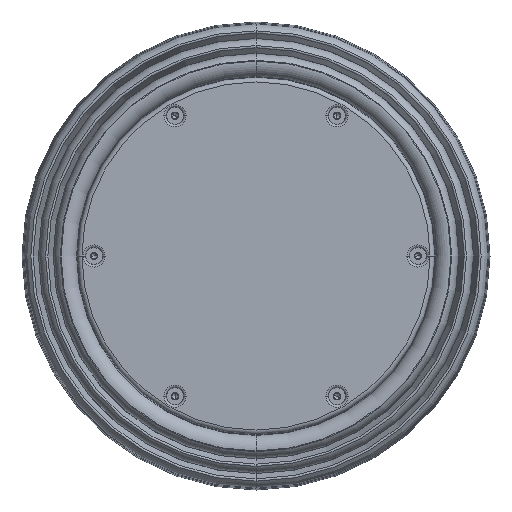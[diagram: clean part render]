
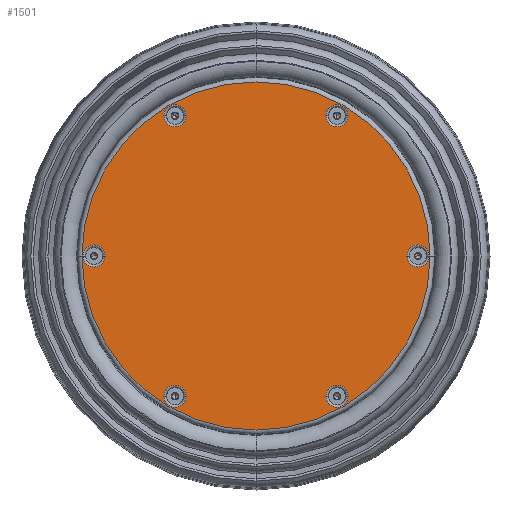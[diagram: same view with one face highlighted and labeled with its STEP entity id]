
A CAD part, front view. The second image highlights one B-rep face of the part: STEP entity #1501.
In plain terms, the highlighted planar face has unit normal (0, -1, 0).
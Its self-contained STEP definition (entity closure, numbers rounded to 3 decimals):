
#220 = EDGE_CURVE ( 'NONE', #18666, #20059, #21678, .T. ) ;
#438 = FACE_BOUND ( 'NONE', #36751, .T. ) ;
#974 = VERTEX_POINT ( 'NONE', #20886 ) ;
#1501 = ADVANCED_FACE ( 'NONE', ( #35865, #6574, #19661, #9987, #438, #23148, #13466 ), #36087, .F. ) ;
#1944 = DIRECTION ( 'NONE',  ( -1., 0., 0. ) ) ;
#2923 = CARTESIAN_POINT ( 'NONE',  ( -35.75, 211.75, 61.921 ) ) ;
#3216 = AXIS2_PLACEMENT_3D ( 'NONE', #30693, #40495, #11194 ) ;
#4213 = CARTESIAN_POINT ( 'NONE',  ( -71.5, 211.75, 0. ) ) ;
#4217 = CARTESIAN_POINT ( 'NONE',  ( -40.632, 211.75, -61.921 ) ) ;
#4424 = DIRECTION ( 'NONE',  ( -1., 0., 0. ) ) ;
#4487 = CARTESIAN_POINT ( 'NONE',  ( -66.618, 211.75, 0. ) ) ;
#4792 = DIRECTION ( 'NONE',  ( -1., 0., 0. ) ) ;
#4903 = EDGE_CURVE ( 'NONE', #10708, #33361, #20574, .T. ) ;
#4929 = DIRECTION ( 'NONE',  ( -1., 0., 0. ) ) ;
#6088 = DIRECTION ( 'NONE',  ( 0., 1., 0. ) ) ;
#6195 = CARTESIAN_POINT ( 'NONE',  ( 30.868, 211.75, 61.921 ) ) ;
#6306 = CIRCLE ( 'NONE', #9732, 76.842 ) ;
#6495 = ORIENTED_EDGE ( 'NONE', *, *, #26375, .T. ) ;
#6574 = FACE_BOUND ( 'NONE', #40353, .T. ) ;
#6891 = DIRECTION ( 'NONE',  ( 0., 1., 0. ) ) ;
#6895 = EDGE_CURVE ( 'NONE', #9827, #35218, #30474, .T. ) ;
#7413 = DIRECTION ( 'NONE',  ( 0., 1., 0. ) ) ;
#7578 = AXIS2_PLACEMENT_3D ( 'NONE', #39185, #6891, #19760 ) ;
#8048 = CARTESIAN_POINT ( 'NONE',  ( 35.75, 211.75, -61.921 ) ) ;
#8614 = AXIS2_PLACEMENT_3D ( 'NONE', #41772, #37923, #15115 ) ;
#8876 = CARTESIAN_POINT ( 'NONE',  ( 76.842, 211.75, 0. ) ) ;
#9732 = AXIS2_PLACEMENT_3D ( 'NONE', #24536, #15100, #37292 ) ;
#9827 = VERTEX_POINT ( 'NONE', #21075 ) ;
#9853 = CARTESIAN_POINT ( 'NONE',  ( -35.75, 211.75, 61.921 ) ) ;
#9987 = FACE_BOUND ( 'NONE', #13087, .T. ) ;
#10061 = DIRECTION ( 'NONE',  ( 0., 1., 0. ) ) ;
#10385 = EDGE_LOOP ( 'NONE', ( #31021, #38209 ) ) ;
#10708 = VERTEX_POINT ( 'NONE', #34126 ) ;
#10965 = CARTESIAN_POINT ( 'NONE',  ( 71.5, 211.75, 0. ) ) ;
#10975 = AXIS2_PLACEMENT_3D ( 'NONE', #38062, #34852, #4929 ) ;
#11059 = EDGE_CURVE ( 'NONE', #16957, #39965, #23192, .T. ) ;
#11194 = DIRECTION ( 'NONE',  ( -1., 0., 0. ) ) ;
#11931 = AXIS2_PLACEMENT_3D ( 'NONE', #13301, #10061, #36139 ) ;
#12372 = CIRCLE ( 'NONE', #7578, 4.882 ) ;
#12929 = CIRCLE ( 'NONE', #40246, 4.882 ) ;
#13087 = EDGE_LOOP ( 'NONE', ( #17021, #6495 ) ) ;
#13138 = VERTEX_POINT ( 'NONE', #40920 ) ;
#13301 = CARTESIAN_POINT ( 'NONE',  ( -71.5, 211.75, 0. ) ) ;
#13466 = FACE_OUTER_BOUND ( 'NONE', #24346, .T. ) ;
#14260 = DIRECTION ( 'NONE',  ( -1., 0., 0. ) ) ;
#15100 = DIRECTION ( 'NONE',  ( 0., -1., 0. ) ) ;
#15115 = DIRECTION ( 'NONE',  ( -1., 0., 0. ) ) ;
#15270 = ORIENTED_EDGE ( 'NONE', *, *, #4903, .T. ) ;
#16957 = VERTEX_POINT ( 'NONE', #25118 ) ;
#17021 = ORIENTED_EDGE ( 'NONE', *, *, #36420, .T. ) ;
#17205 = EDGE_CURVE ( 'NONE', #38368, #40803, #35648, .T. ) ;
#17430 = DIRECTION ( 'NONE',  ( 0., 1., 0. ) ) ;
#17647 = EDGE_CURVE ( 'NONE', #39965, #16957, #6306, .T. ) ;
#18044 = CARTESIAN_POINT ( 'NONE',  ( 35.75, 211.75, 61.921 ) ) ;
#18293 = ORIENTED_EDGE ( 'NONE', *, *, #33843, .T. ) ;
#18410 = CIRCLE ( 'NONE', #41637, 4.882 ) ;
#18666 = VERTEX_POINT ( 'NONE', #6195 ) ;
#19661 = FACE_BOUND ( 'NONE', #31804, .T. ) ;
#19760 = DIRECTION ( 'NONE',  ( -1., 0., 0. ) ) ;
#19936 = DIRECTION ( 'NONE',  ( 0., 1., 0. ) ) ;
#19978 = EDGE_CURVE ( 'NONE', #35218, #9827, #37922, .T. ) ;
#20059 = VERTEX_POINT ( 'NONE', #20230 ) ;
#20094 = CARTESIAN_POINT ( 'NONE',  ( -76.382, 211.75, 0. ) ) ;
#20230 = CARTESIAN_POINT ( 'NONE',  ( 40.632, 211.75, 61.921 ) ) ;
#20288 = DIRECTION ( 'NONE',  ( 0., 1., 0. ) ) ;
#20553 = ORIENTED_EDGE ( 'NONE', *, *, #6895, .T. ) ;
#20574 = CIRCLE ( 'NONE', #10975, 4.882 ) ;
#20886 = CARTESIAN_POINT ( 'NONE',  ( 40.632, 211.75, -61.921 ) ) ;
#21075 = CARTESIAN_POINT ( 'NONE',  ( -30.868, 211.75, 61.921 ) ) ;
#21169 = DIRECTION ( 'NONE',  ( -1., 0., 0. ) ) ;
#21678 = CIRCLE ( 'NONE', #3216, 4.882 ) ;
#22229 = ORIENTED_EDGE ( 'NONE', *, *, #23450, .T. ) ;
#22359 = DIRECTION ( 'NONE',  ( 0., 1., 0. ) ) ;
#22998 = AXIS2_PLACEMENT_3D ( 'NONE', #9853, #22359, #25554 ) ;
#23148 = FACE_BOUND ( 'NONE', #10385, .T. ) ;
#23192 = CIRCLE ( 'NONE', #34031, 76.842 ) ;
#23450 = EDGE_CURVE ( 'NONE', #40803, #38368, #30395, .T. ) ;
#23580 = ORIENTED_EDGE ( 'NONE', *, *, #17647, .T. ) ;
#24303 = CARTESIAN_POINT ( 'NONE',  ( 0., 211.75, 0. ) ) ;
#24346 = EDGE_LOOP ( 'NONE', ( #31771, #23580 ) ) ;
#24536 = CARTESIAN_POINT ( 'NONE',  ( 0., 211.75, 0. ) ) ;
#24623 = CIRCLE ( 'NONE', #36856, 4.882 ) ;
#25118 = CARTESIAN_POINT ( 'NONE',  ( -76.842, 211.75, 0. ) ) ;
#25554 = DIRECTION ( 'NONE',  ( -1., 0., 0. ) ) ;
#26375 = EDGE_CURVE ( 'NONE', #974, #13138, #12929, .T. ) ;
#26430 = ORIENTED_EDGE ( 'NONE', *, *, #17205, .T. ) ;
#26567 = CARTESIAN_POINT ( 'NONE',  ( 66.618, 211.75, 0. ) ) ;
#26917 = EDGE_CURVE ( 'NONE', #20059, #18666, #24623, .T. ) ;
#27910 = EDGE_CURVE ( 'NONE', #33361, #10708, #12372, .T. ) ;
#28454 = ORIENTED_EDGE ( 'NONE', *, *, #19978, .T. ) ;
#28656 = CARTESIAN_POINT ( 'NONE',  ( 71.5, 211.75, 0. ) ) ;
#29828 = AXIS2_PLACEMENT_3D ( 'NONE', #8048, #20288, #21169 ) ;
#30283 = CARTESIAN_POINT ( 'NONE',  ( -40.632, 211.75, 61.921 ) ) ;
#30315 = AXIS2_PLACEMENT_3D ( 'NONE', #28656, #31202, #1944 ) ;
#30395 = CIRCLE ( 'NONE', #11931, 4.882 ) ;
#30436 = DIRECTION ( 'NONE',  ( -1., 0., 0. ) ) ;
#30474 = CIRCLE ( 'NONE', #22998, 4.882 ) ;
#30519 = EDGE_CURVE ( 'NONE', #30830, #41641, #18410, .T. ) ;
#30693 = CARTESIAN_POINT ( 'NONE',  ( 35.75, 211.75, 61.921 ) ) ;
#30830 = VERTEX_POINT ( 'NONE', #40170 ) ;
#30986 = CIRCLE ( 'NONE', #30315, 4.882 ) ;
#31021 = ORIENTED_EDGE ( 'NONE', *, *, #220, .T. ) ;
#31202 = DIRECTION ( 'NONE',  ( 0., 1., 0. ) ) ;
#31771 = ORIENTED_EDGE ( 'NONE', *, *, #11059, .T. ) ;
#31804 = EDGE_LOOP ( 'NONE', ( #40807, #15270 ) ) ;
#32348 = CARTESIAN_POINT ( 'NONE',  ( 35.75, 211.75, -61.921 ) ) ;
#32584 = CIRCLE ( 'NONE', #29828, 4.882 ) ;
#33361 = VERTEX_POINT ( 'NONE', #4217 ) ;
#33843 = EDGE_CURVE ( 'NONE', #41641, #30830, #30986, .T. ) ;
#34031 = AXIS2_PLACEMENT_3D ( 'NONE', #24303, #37262, #4792 ) ;
#34058 = EDGE_LOOP ( 'NONE', ( #26430, #22229 ) ) ;
#34126 = CARTESIAN_POINT ( 'NONE',  ( -30.868, 211.75, -61.921 ) ) ;
#34852 = DIRECTION ( 'NONE',  ( 0., 1., 0. ) ) ;
#34991 = AXIS2_PLACEMENT_3D ( 'NONE', #4213, #7413, #4424 ) ;
#35185 = AXIS2_PLACEMENT_3D ( 'NONE', #2923, #6088, #42221 ) ;
#35218 = VERTEX_POINT ( 'NONE', #30283 ) ;
#35648 = CIRCLE ( 'NONE', #34991, 4.882 ) ;
#35865 = FACE_BOUND ( 'NONE', #34058, .T. ) ;
#35924 = ORIENTED_EDGE ( 'NONE', *, *, #30519, .T. ) ;
#36087 = PLANE ( 'NONE',  #8614 ) ;
#36139 = DIRECTION ( 'NONE',  ( -1., 0., 0. ) ) ;
#36345 = DIRECTION ( 'NONE',  ( -1., 0., 0. ) ) ;
#36420 = EDGE_CURVE ( 'NONE', #13138, #974, #32584, .T. ) ;
#36751 = EDGE_LOOP ( 'NONE', ( #18293, #35924 ) ) ;
#36856 = AXIS2_PLACEMENT_3D ( 'NONE', #18044, #17430, #14260 ) ;
#37262 = DIRECTION ( 'NONE',  ( 0., -1., 0. ) ) ;
#37292 = DIRECTION ( 'NONE',  ( -1., 0., 0. ) ) ;
#37922 = CIRCLE ( 'NONE', #35185, 4.882 ) ;
#37923 = DIRECTION ( 'NONE',  ( 0., 1., 0. ) ) ;
#38062 = CARTESIAN_POINT ( 'NONE',  ( -35.75, 211.75, -61.921 ) ) ;
#38209 = ORIENTED_EDGE ( 'NONE', *, *, #26917, .T. ) ;
#38368 = VERTEX_POINT ( 'NONE', #20094 ) ;
#39185 = CARTESIAN_POINT ( 'NONE',  ( -35.75, 211.75, -61.921 ) ) ;
#39965 = VERTEX_POINT ( 'NONE', #8876 ) ;
#40170 = CARTESIAN_POINT ( 'NONE',  ( 76.382, 211.75, 0. ) ) ;
#40246 = AXIS2_PLACEMENT_3D ( 'NONE', #32348, #19936, #36345 ) ;
#40265 = DIRECTION ( 'NONE',  ( 0., 1., 0. ) ) ;
#40353 = EDGE_LOOP ( 'NONE', ( #28454, #20553 ) ) ;
#40495 = DIRECTION ( 'NONE',  ( 0., 1., 0. ) ) ;
#40803 = VERTEX_POINT ( 'NONE', #4487 ) ;
#40807 = ORIENTED_EDGE ( 'NONE', *, *, #27910, .T. ) ;
#40920 = CARTESIAN_POINT ( 'NONE',  ( 30.868, 211.75, -61.921 ) ) ;
#41637 = AXIS2_PLACEMENT_3D ( 'NONE', #10965, #40265, #30436 ) ;
#41641 = VERTEX_POINT ( 'NONE', #26567 ) ;
#41772 = CARTESIAN_POINT ( 'NONE',  ( 0., 211.75, 78.773 ) ) ;
#42221 = DIRECTION ( 'NONE',  ( -1., 0., 0. ) ) ;
